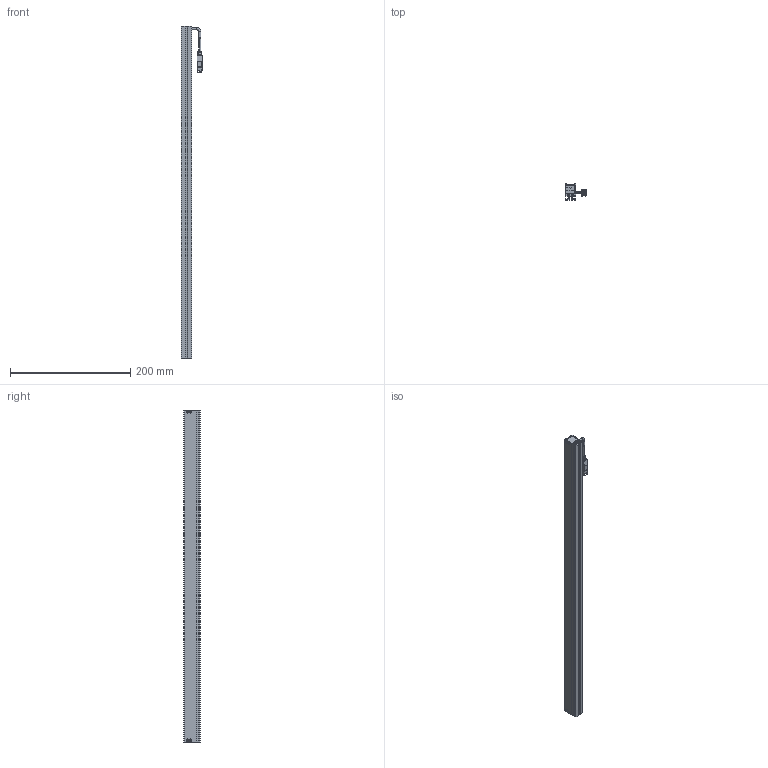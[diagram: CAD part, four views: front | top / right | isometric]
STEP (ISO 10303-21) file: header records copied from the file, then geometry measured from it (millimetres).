
FILE_DESCRIPTION (( 'STEP AP203' ), '1' );
FILE_NAME ('CST-2BS55218-¼òÒ×3DÍ¼.STEP', '2021-06-15T09:42:43', ( '' ), ( '' ), 'SwSTEP 2.0', 'SolidWorks 2018', '' );
FILE_SCHEMA (( 'CONFIG_CONTROL_DESIGN' ));
Length unit declared in the file: millimetre
Products named in the file (1): CST-2BS55218-潠眢3D芞
Bounding box: 36.55 x 27 x 552 mm (x, y, z)
Surface area: 147856.7 mm2 (no closed solid volume)
Topology: 0 solids, 18 shells, 544 faces, 1437 edges, 912 vertices
Faces by surface type: plane 303, cylinder 155, cone 52, bspline 28, torus 6
Entity records: 17308 total; most frequent: CARTESIAN_POINT 3934, ORIENTED_EDGE 2787, DIRECTION 2711, EDGE_CURVE 1417, VECTOR 973, LINE 973, VERTEX_POINT 912, AXIS2_PLACEMENT_3D 869
